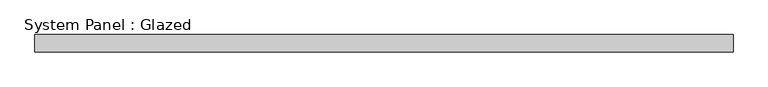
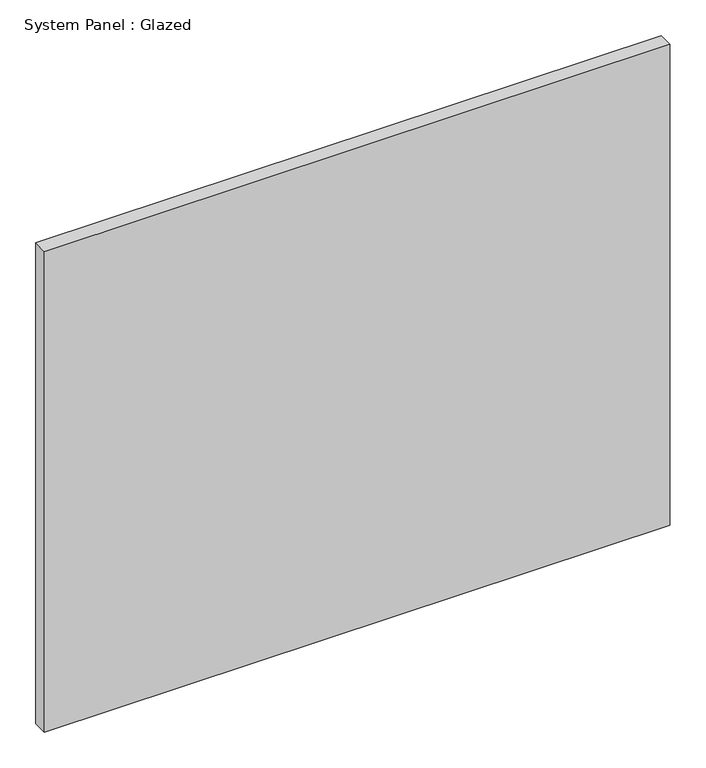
"""IFC4 building model written with IfcOpenShell, lengths in millimetres: plate geometry, System Panel : Glazed."""

from ifc_helpers import new_model, si_unit, origin, origin_with_axes, place, context, project, spatial, polyline, outline, extrude, source, transform, mapped, element, save


def system_panel_glazed_34c8777d(model_context):
    return source(origin(), model_context, "Body", "SweptSolid", [
        extrude(outline(polyline([(507.5, 24.5), (-507.5, 24.5), (-507.5, 49.5), (507.5, 49.5), (507.5, 24.5)])), origin_with_axes(), (0.0, 0.0, 1.0), 825.0),
    ])


if __name__ == "__main__":
    model = new_model("IFC4")
    model_context = context("Model", 3, world=origin())
    ifc_project = project(units=[si_unit("LENGTHUNIT", "METRE", prefix="MILLI")], contexts=[model_context])
    site = spatial("IfcSite", under=ifc_project)
    building = spatial("IfcBuilding", under=site)
    placement = place(None, origin())
    system_panel_glazed_shape = system_panel_glazed_34c8777d(model_context)
    element("IfcPlate", 1, ObjectType="System Panel : Glazed", at=placement, inside=building, context=model_context, shape_type="MappedRepresentation", body=[
        mapped(system_panel_glazed_shape, transform((0.0, 0.0, 0.0), x_axis=(1.0, 0.0, 0.0), y_axis=(0.0, 1.0, 0.0), z_axis=(0.0, 0.0, 1.0))),
    ])
    save(model, "model.ifc")
